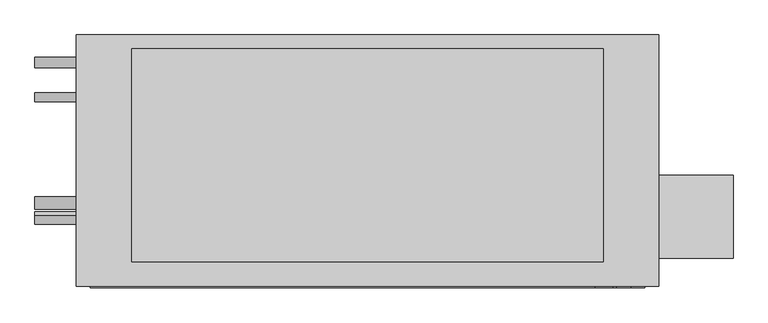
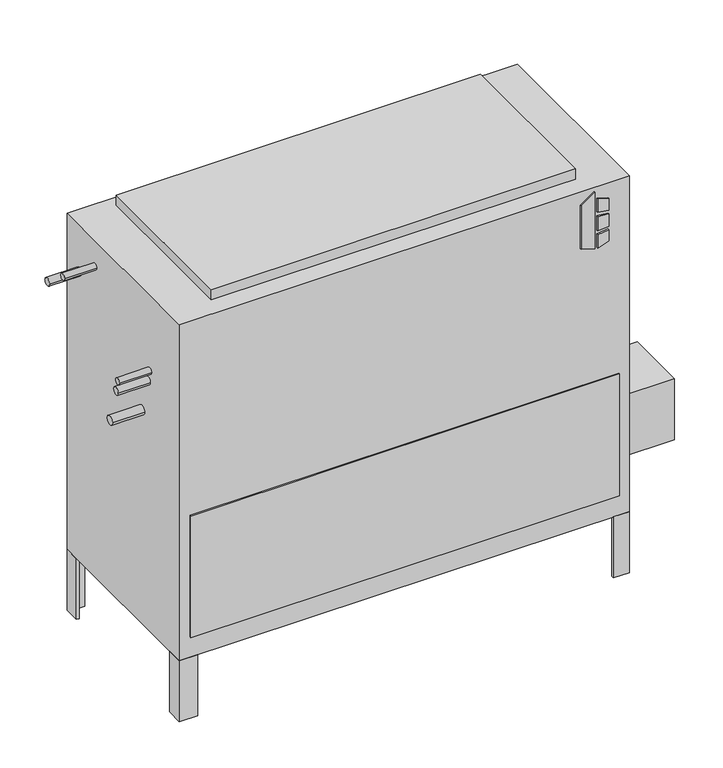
"""IFC4 building model written with IfcOpenShell, lengths in millimetres: proxy geometry, Concealed_High_Capacity_Vertical_Fan_Coil_Unit_-_VEY_-_IEC_-_4-Pipe_LH_2022 : Size 14 - 277v/60Hz/1Ph - 4/2 Coil."""

import ifcopenshell
import ifcopenshell.guid

model = None  # the IFC model being written
_history = None  # IfcOwnerHistory: only IFC2X3 demands one
_inside = {}  # id of a spatial element -> (the spatial element, [elements in it])
_under = {}  # id of a project, library or spatial element -> (it, [spatial elements below it])
_declared = {}  # id of a project -> (the project, [libraries it declares])
_typed = {}  # id of a type object -> (the type object, [elements of that type])
_made_of = {}  # id of a material, layer set ... -> (it, [elements and type objects made of it])


def new_model(schema):
    """Start an empty IFC model of exactly this schema.

    Asked for "IFC4X3", IfcOpenShell would pick the latest addendum, in which some entities
    have other attributes; the version numbers below select the first issue.
    IFC2X3 requires an IfcOwnerHistory on every rooted entity: one is made here for all.
    """
    global model, _history
    if schema == "IFC4X3":
        model = ifcopenshell.file(schema_version=(4, 3, 0, 0))
    else:
        model = ifcopenshell.file(schema=schema)
    _inside.clear()
    _under.clear()
    _declared.clear()
    _typed.clear()
    _made_of.clear()
    _history = None
    if model.schema == "IFC2X3":
        org = make("IfcOrganization", Name="unknown")
        user = make(
            "IfcPersonAndOrganization",
            ThePerson=make("IfcPerson", FamilyName="unknown"),
            TheOrganization=org,
        )
        app = make(
            "IfcApplication",
            ApplicationDeveloper=org,
            Version="unknown",
            ApplicationFullName="unknown",
            ApplicationIdentifier="unknown",
        )
        _history = make(
            "IfcOwnerHistory",
            OwningUser=user,
            OwningApplication=app,
            ChangeAction="ADDED",
            CreationDate=0,
        )
    return model


def make(cls, **values):
    """One entity of the class cls with the attributes given. An attribute that is None is left unset."""
    return model.create_entity(
        cls, **{name: value for name, value in values.items() if value is not None}
    )


def rooted(cls, **values):
    """An entity with a GlobalId (a new one), such as an element, a storey or a relation."""
    return make(cls, GlobalId=ifcopenshell.guid.new(), OwnerHistory=_history, **values)


def si_unit(unit_type, name, prefix=None):
    """IfcSIUnit, for example si_unit("LENGTHUNIT", "METRE", prefix="MILLI")."""
    return make("IfcSIUnit", UnitType=unit_type, Prefix=prefix, Name=name)


def assignment(units):
    """IfcUnitAssignment: the units of a project."""
    return None if units is None else make("IfcUnitAssignment", Units=units)


def point(xyz):
    """IfcCartesianPoint."""
    return None if xyz is None else make("IfcCartesianPoint", Coordinates=xyz)


def direction(xyz):
    """IfcDirection."""
    return None if xyz is None else make("IfcDirection", DirectionRatios=xyz)


def frame(location, z_axis=None, x_axis=None):
    """IfcAxis2Placement3D, a coordinate frame: its origin and axes. An axis left out is left unset."""
    return make(
        "IfcAxis2Placement3D",
        Location=point(location),
        Axis=direction(z_axis),
        RefDirection=direction(x_axis),
    )


def frame_2d(location, x_axis=None):
    """IfcAxis2Placement2D, a coordinate frame in the plane: its origin and x axis."""
    return make(
        "IfcAxis2Placement2D", Location=point(location), RefDirection=direction(x_axis)
    )


def origin():
    """The frame at (0, 0, 0) with its axes left unset."""
    return frame((0.0, 0.0, 0.0))


def origin_with_axes():
    """The frame at (0, 0, 0) with the z axis (0, 0, 1) and the x axis (1, 0, 0) written out."""
    return frame((0.0, 0.0, 0.0), z_axis=(0.0, 0.0, 1.0), x_axis=(1.0, 0.0, 0.0))


def place(relative_to, where):
    """IfcLocalPlacement: puts the frame where relative to a parent placement (None: the world)."""
    return make(
        "IfcLocalPlacement", PlacementRelTo=relative_to, RelativePlacement=where
    )


def context(
    kind, dimensions, precision=None, world=None, true_north=None, identifier=None
):
    """IfcGeometricRepresentationContext, for example the 3D "Model" context."""
    return make(
        "IfcGeometricRepresentationContext",
        ContextIdentifier=identifier,
        ContextType=kind,
        CoordinateSpaceDimension=dimensions,
        Precision=precision,
        WorldCoordinateSystem=world,
        TrueNorth=true_north,
    )


def project(units=None, contexts=None):
    """IfcProject with its units and contexts."""
    return rooted(
        "IfcProject",
        Name="project",
        RepresentationContexts=contexts,
        UnitsInContext=assignment(units),
    )


def spatial(cls, under=None, at=None, **own):
    """A site, building, storey or space (cls), placed at a placement, below another one or the project."""
    s = rooted(cls, ObjectPlacement=at, **own)
    if under is not None:
        _under.setdefault(under.id(), (under, []))[1].append(s)
    return s


def polyline(points):
    """IfcPolyline through the points."""
    return make("IfcPolyline", Points=[point(p) for p in points])


def circle_curve(where, radius):
    """IfcCircle in the frame where."""
    return make("IfcCircle", Position=where, Radius=radius)


def trimmed(basis, trim1, trim2, sense, master):
    """IfcTrimmedCurve: the piece of a basis curve between two trims."""
    return make(
        "IfcTrimmedCurve",
        BasisCurve=basis,
        Trim1=trim1,
        Trim2=trim2,
        SenseAgreement=sense,
        MasterRepresentation=master,
    )


def segment(curve, same_sense, transition):
    """IfcCompositeCurveSegment."""
    return make(
        "IfcCompositeCurveSegment",
        Transition=transition,
        SameSense=same_sense,
        ParentCurve=curve,
    )


def composite_curve(segments, self_intersect=None):
    """IfcCompositeCurve: segments joined end to end."""
    return make("IfcCompositeCurve", Segments=segments, SelfIntersect=self_intersect)


def outline(outer, holes=None, kind="AREA"):
    """IfcArbitraryClosedProfileDef: a profile drawn as a closed curve; with holes, ...WithVoids."""
    if holes is None:
        return make("IfcArbitraryClosedProfileDef", ProfileType=kind, OuterCurve=outer)
    return make(
        "IfcArbitraryProfileDefWithVoids",
        ProfileType=kind,
        OuterCurve=outer,
        InnerCurves=holes,
    )


def extrude(swept, where, along, depth):
    """IfcExtrudedAreaSolid: the profile swept, set in the frame where, extruded along a direction by depth."""
    return make(
        "IfcExtrudedAreaSolid",
        SweptArea=swept,
        Position=where,
        ExtrudedDirection=direction(along),
        Depth=depth,
    )


def shape(context_of_items, identifier, shape_type, items):
    """IfcShapeRepresentation: the items that make up one representation, for example the "Body"."""
    return make(
        "IfcShapeRepresentation",
        ContextOfItems=context_of_items,
        RepresentationIdentifier=identifier,
        RepresentationType=shape_type,
        Items=items,
    )


def source(mapping_origin, context_of_items, identifier, shape_type, items):
    """IfcRepresentationMap: a shape defined once, which mapped items show again and again."""
    return make(
        "IfcRepresentationMap",
        MappingOrigin=mapping_origin,
        MappedRepresentation=shape(context_of_items, identifier, shape_type, items),
    )


def transform(
    local_origin,
    x_axis=None,
    y_axis=None,
    z_axis=None,
    scale=None,
    scale2=None,
    scale3=None,
    uniform=True,
):
    """IfcCartesianTransformationOperator3D, or its non-uniform kind. x_axis, y_axis, z_axis: its Axis1, 2, 3."""
    if uniform:
        return make(
            "IfcCartesianTransformationOperator3D",
            Axis1=direction(x_axis),
            Axis2=direction(y_axis),
            LocalOrigin=point(local_origin),
            Scale=scale,
            Axis3=direction(z_axis),
        )
    return make(
        "IfcCartesianTransformationOperator3DnonUniform",
        Axis1=direction(x_axis),
        Axis2=direction(y_axis),
        LocalOrigin=point(local_origin),
        Scale=scale,
        Axis3=direction(z_axis),
        Scale2=scale2,
        Scale3=scale3,
    )


def mapped(mapping_source, mapping_target):
    """IfcMappedItem: shows the shape of a source again, moved by a transform."""
    return make(
        "IfcMappedItem", MappingSource=mapping_source, MappingTarget=mapping_target
    )


def made_of(thing, what):
    """Note that an element or type object is made of a material, layer set ...; save() writes the relation."""
    if what is not None:
        _made_of.setdefault(what.id(), (what, []))[1].append(thing)
    return thing


def element(
    cls,
    number,
    at=None,
    inside=None,
    cuts=None,
    type_object=None,
    material=None,
    context=None,
    identifier="Body",
    shape_type=None,
    held_by="IfcProductDefinitionShape",
    body=None,
    shapes=None,
    **own,
):
    """One element of the class cls, such as IfcWall. Its Tag is "e" and its number.

    at: its placement. inside: the storey or other place that contains it. cuts: it is an
    opening in that element (IfcRelVoidsElement). A single representation is given by context,
    identifier, shape_type and body (its items); several are given by shapes. held_by: the class
    of the entity that holds the representations. save() writes the other relations.
    """
    e = rooted(cls, Tag="e%d" % number, ObjectPlacement=at, **own)
    if body is not None:
        shapes = [shape(context, identifier, shape_type, body)]
    if shapes is not None:
        e.Representation = make(held_by, Representations=shapes)
    if inside is not None:
        _inside.setdefault(inside.id(), (inside, []))[1].append(e)
    if cuts is not None:
        rooted(
            "IfcRelVoidsElement", RelatingBuildingElement=cuts, RelatedOpeningElement=e
        )
    if type_object is not None:
        _typed.setdefault(type_object.id(), (type_object, []))[1].append(e)
    return made_of(e, material)


def aggregate(whole, parts):
    """IfcRelAggregates: a whole, such as a stair, and the parts it consists of."""
    return rooted("IfcRelAggregates", RelatingObject=whole, RelatedObjects=parts)


def save(model, path):
    """Write the relations noted so far, then the file.

    IfcRelAggregates (storeys below a building ...), IfcRelContainedInSpatialStructure (elements
    in a storey), IfcRelDefinesByType, IfcRelAssociatesMaterial and IfcRelDeclares: one each for
    every whole, place, type object, material and project.
    """
    for whole, parts in _under.values():
        aggregate(whole, parts)
    for where, things in _inside.values():
        rooted(
            "IfcRelContainedInSpatialStructure",
            RelatedElements=things,
            RelatingStructure=where,
        )
    for kind, things in _typed.values():
        rooted("IfcRelDefinesByType", RelatedObjects=things, RelatingType=kind)
    for what, things in _made_of.values():
        rooted("IfcRelAssociatesMaterial", RelatedObjects=things, RelatingMaterial=what)
    for by, libraries in _declared.values():
        rooted("IfcRelDeclares", RelatingContext=by, RelatedDefinitions=libraries)
    model.write(path)


def mechanical_equipment_3394728d(model_context):
    return source(origin(), model_context, "Body", "SweptSolid", [
        extrude(outline(polyline([(698.9230703, 569.9868862), (688.975, 602.1602728), (831.1459244, 602.1602728), (808.1239183, 569.9868862), (698.9230703, 569.9868862)])), frame((0.0, -471.4875, 0.0), z_axis=(0.0, 1.0, 0.0), x_axis=(0.0, 0.0, 1.0)), (0.0, 0.0, 1.0), 3.175),
        extrude(outline(polyline([(777.9223557, 608.9186058), (774.7199632, 635.0), (803.9488042, 635.0), (812.0132193, 608.9186058), (777.9223557, 608.9186058)])), frame((0.0, -471.4875, 0.0), z_axis=(0.0, 1.0, 0.0), x_axis=(0.0, 0.0, 1.0)), (0.0, 0.0, 1.0), 3.175),
        extrude(outline(polyline([(726.0588288, 635.0), (722.3933279, 608.9186058), (688.975, 608.9186058), (697.6092372, 635.0), (726.0588288, 635.0)])), frame((0.0, -471.4875, 0.0), z_axis=(0.0, 1.0, 0.0), x_axis=(0.0, 0.0, 1.0)), (0.0, 0.0, 1.0), 3.175),
        extrude(outline(polyline([(765.3739903, 635.0), (767.6558166, 608.9186058), (731.7182681, 608.9186058), (734.4595331, 635.0), (765.3739903, 635.0)])), frame((0.0, -471.4875, 0.0), z_axis=(0.0, 1.0, 0.0), x_axis=(0.0, 0.0, 1.0)), (0.0, 0.0, 1.0), 3.175),
        extrude(outline(polyline([(822.325, -265.1125), (822.325, -417.5125), (685.8, -417.5125), (685.8, -265.1125), (822.325, -265.1125)])), frame((0.0, 0.0, 101.6), z_axis=(0.0, 0.0, 1.0), x_axis=(1.0, 0.0, 0.0)), (0.0, 0.0, 1.0), 152.4),
        extrude(outline(polyline([(685.8, -46.0375), (679.45, -46.0375), (679.45, -14.2875), (647.7, -14.2875), (647.7, -7.9375), (685.8, -7.9375), (685.8, -46.0375)])), frame((0.0, 0.0, -152.4), z_axis=(0.0, 0.0, 1.0), x_axis=(1.0, 0.0, 0.0)), (0.0, 0.0, 1.0), 152.4),
        extrude(outline(polyline([(-342.9, -7.9375), (-342.9, -14.2875), (-374.65, -14.2875), (-374.65, -46.0375), (-381.0, -46.0375), (-381.0, -7.9375), (-342.9, -7.9375)])), frame((0.0, 0.0, -152.4), z_axis=(0.0, 0.0, 1.0), x_axis=(1.0, 0.0, 0.0)), (0.0, 0.0, 1.0), 152.4),
        extrude(outline(polyline([(647.7, -468.3125), (647.7, -461.9625), (679.45, -461.9625), (679.45, -430.2125), (685.8, -430.2125), (685.8, -468.3125), (647.7, -468.3125)])), frame((0.0, 0.0, -152.4), z_axis=(0.0, 0.0, 1.0), x_axis=(1.0, 0.0, 0.0)), (0.0, 0.0, 1.0), 152.4),
        extrude(outline(polyline([(-381.0, -428.1199163), (-374.65, -428.1199163), (-374.65, -461.9625), (-337.5318533, -461.9625), (-337.5318533, -468.3125), (-381.0, -468.3125), (-381.0, -428.1199163)])), frame((0.0, 0.0, -152.4), z_axis=(0.0, 0.0, 1.0), x_axis=(1.0, 0.0, 0.0)), (0.0, 0.0, 1.0), 152.4),
        extrude(outline(polyline([(584.2, -33.3375), (584.2, -423.8625), (-279.4, -423.8625), (-279.4, -33.3375), (584.2, -33.3375)])), frame((0.0, 0.0, 841.375), z_axis=(0.0, 0.0, 1.0), x_axis=(1.0, 0.0, 0.0)), (0.0, 0.0, 1.0), 25.4),
        extrude(outline(polyline([(660.4, -471.4875), (-355.6, -471.4875), (-355.6, -468.3125), (660.4, -468.3125), (660.4, -471.4875)])), frame((0.0, 0.0, 50.8), z_axis=(0.0, 0.0, 1.0), x_axis=(1.0, 0.0, 0.0)), (0.0, 0.0, 1.0), 304.8),
        extrude(outline(composite_curve([segment(trimmed(circle_curve(frame_2d((-122.2375, 777.875)), 7.9375), [point((-130.175, 777.875))], [point((-114.3, 777.875))], False, "CARTESIAN"), True, "CONTINUOUS"), segment(trimmed(circle_curve(frame_2d((-122.2375, 777.875)), 7.9375), [point((-114.3, 777.875))], [point((-130.175, 777.875))], False, "CARTESIAN"), True, "CONTINUOUS")], self_intersect=False)), frame((-457.2, 0.0, 0.0), z_axis=(1.0, 0.0, 0.0), x_axis=(0.0, 1.0, 0.0)), (0.0, 0.0, 1.0), 76.2),
        extrude(outline(composite_curve([segment(trimmed(circle_curve(frame_2d((-347.3848135, 653.2230057)), 7.9375), [point((-355.3223135, 653.2230057))], [point((-339.4473135, 653.2230057))], False, "CARTESIAN"), True, "CONTINUOUS"), segment(trimmed(circle_curve(frame_2d((-347.3848135, 653.2230057)), 7.9375), [point((-339.4473135, 653.2230057))], [point((-355.3223135, 653.2230057))], False, "CARTESIAN"), True, "CONTINUOUS")], self_intersect=False)), frame((-457.2, 0.0, 0.0), z_axis=(1.0, 0.0, 0.0), x_axis=(0.0, 1.0, 0.0)), (0.0, 0.0, 1.0), 76.2),
        extrude(outline(composite_curve([segment(trimmed(circle_curve(frame_2d((-58.7375, 727.075)), 9.525), [point((-68.2625, 727.075))], [point((-49.2125, 727.075))], False, "CARTESIAN"), True, "CONTINUOUS"), segment(trimmed(circle_curve(frame_2d((-58.7375, 727.075)), 9.525), [point((-49.2125, 727.075))], [point((-68.2625, 727.075))], False, "CARTESIAN"), True, "CONTINUOUS")], self_intersect=False)), frame((-457.2, 0.0, 0.0), z_axis=(1.0, 0.0, 0.0), x_axis=(0.0, 1.0, 0.0)), (0.0, 0.0, 1.0), 76.2),
        extrude(outline(composite_curve([segment(trimmed(circle_curve(frame_2d((-341.3125, 625.475)), 9.525), [point((-350.8375, 625.475))], [point((-331.7875, 625.475))], False, "CARTESIAN"), True, "CONTINUOUS"), segment(trimmed(circle_curve(frame_2d((-341.3125, 625.475)), 9.525), [point((-331.7875, 625.475))], [point((-350.8375, 625.475))], False, "CARTESIAN"), True, "CONTINUOUS")], self_intersect=False)), frame((-457.2, 0.0, 0.0), z_axis=(1.0, 0.0, 0.0), x_axis=(0.0, 1.0, 0.0)), (0.0, 0.0, 1.0), 76.2),
        extrude(outline(composite_curve([segment(trimmed(circle_curve(frame_2d((-315.9125, 536.575)), 11.1125), [point((-327.025, 536.575))], [point((-304.8, 536.575))], False, "CARTESIAN"), True, "CONTINUOUS"), segment(trimmed(circle_curve(frame_2d((-315.9125, 536.575)), 11.1125), [point((-304.8, 536.575))], [point((-327.025, 536.575))], False, "CARTESIAN"), True, "CONTINUOUS")], self_intersect=False)), frame((-457.2, 0.0, 0.0), z_axis=(1.0, 0.0, 0.0), x_axis=(0.0, 1.0, 0.0)), (0.0, 0.0, 1.0), 76.2),
        extrude(outline(polyline([(685.8, -7.9375), (685.8, -468.3125), (-381.0, -468.3125), (-381.0, -7.9375), (685.8, -7.9375)])), origin_with_axes(), (0.0, 0.0, 1.0), 841.375),
    ])


if __name__ == "__main__":
    model = new_model("IFC4")
    model_context = context("Model", 3, world=origin())
    ifc_project = project(units=[si_unit("LENGTHUNIT", "METRE", prefix="MILLI")], contexts=[model_context])
    site = spatial("IfcSite", under=ifc_project)
    building = spatial("IfcBuilding", under=site)
    placement = place(None, origin())
    mechanical_equipment_shape = mechanical_equipment_3394728d(model_context)
    element("IfcBuildingElementProxy", 1, Name="Concealed_High_Capacity_Vertical_Fan_Coil_Unit_-_VEY_-_IEC_-_4-Pipe_LH_2022 : Size 14 - 277v/60Hz/1Ph - 4/2 Coil", ObjectType="Concealed_High_Capacity_Vertical_Fan_Coil_Unit_-_VEY_-_IEC_-_4-Pipe_LH_2022 : Size 14 - 277v/60Hz/1Ph - 4/2 Coil", at=placement, inside=building, context=model_context, shape_type="MappedRepresentation", body=[
        mapped(mechanical_equipment_shape, transform((0.0, 0.0, 0.0), x_axis=(1.0, 0.0, 0.0), y_axis=(0.0, 1.0, 0.0), z_axis=(0.0, 0.0, 1.0))),
    ])
    save(model, "model.ifc")
